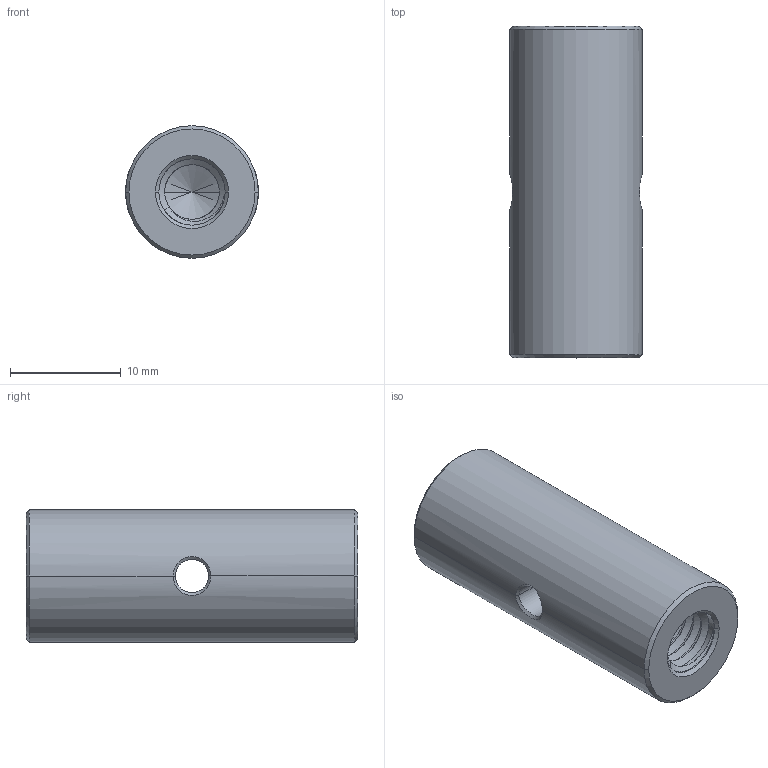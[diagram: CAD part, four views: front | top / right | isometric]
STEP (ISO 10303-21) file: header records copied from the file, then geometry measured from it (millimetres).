
FILE_DESCRIPTION((''),'2;1');
FILE_NAME('PCA3-S1','2020-12-11T',('Administrator'),(''),'CREO PARAMETRIC BY PTC INC, 2015290','CREO PARAMETRIC BY PTC INC, 2015290','');
FILE_SCHEMA(('CONFIG_CONTROL_DESIGN'));
Length unit declared in the file: millimetre
Products named in the file (1): PCA3-S1
Bounding box: 12 x 30 x 12 mm (x, y, z)
Volume: 2999 mm3; surface area: 1786.4 mm2
Topology: 1 solids, 1 shells, 78 faces, 207 edges, 127 vertices
Faces by surface type: cylinder 40, bspline 22, cone 12, plane 4
Entity records: 5873 total; most frequent: CARTESIAN_POINT 4186, ORIENTED_EDGE 406, DIRECTION 231, EDGE_CURVE 203, VERTEX_POINT 127, B_SPLINE_CURVE_WITH_KNOTS 104, EDGE_LOOP 80, VECTOR 79
